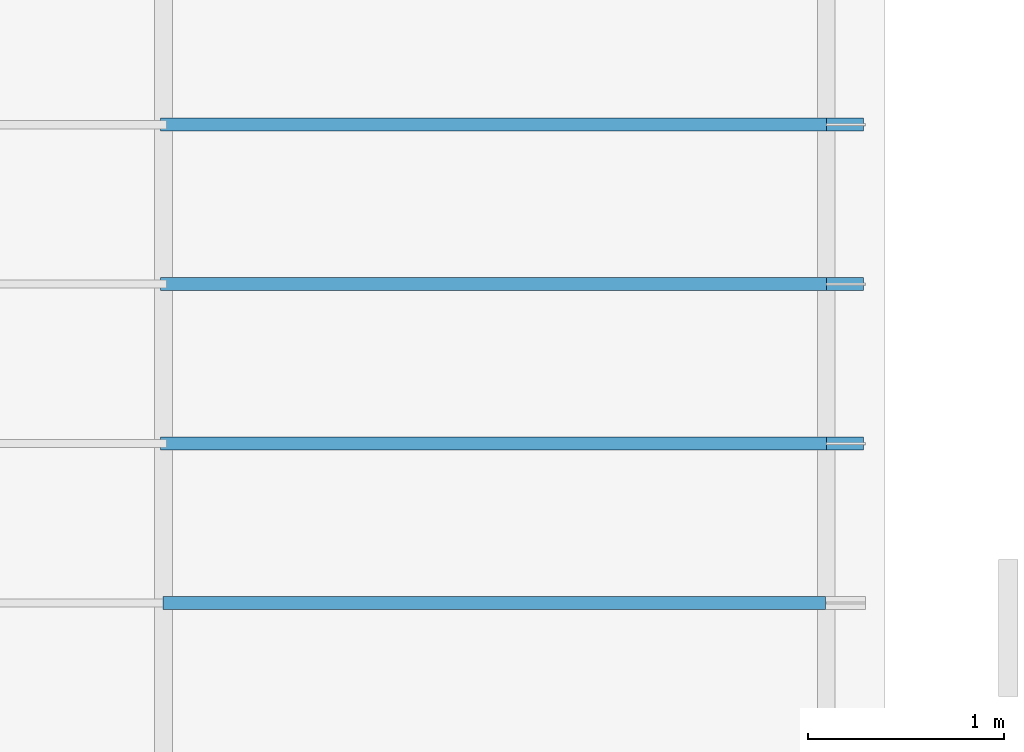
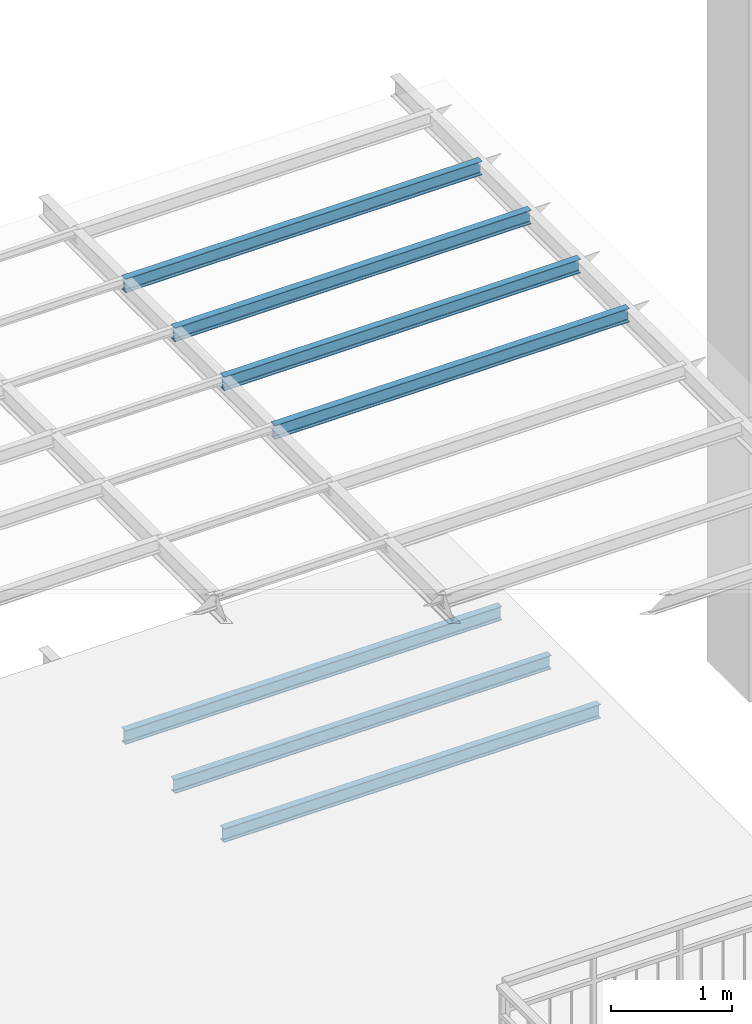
# One storey, part 21 of 33: 7 beams.
"""IFC2X3 building model written with IfcOpenShell, lengths in metres."""

import ifcopenshell
import ifcopenshell.guid

model = None  # the IFC model being written
_history = None  # IfcOwnerHistory: only IFC2X3 demands one
_inside = {}  # id of a spatial element -> (the spatial element, [elements in it])
_under = {}  # id of a project, library or spatial element -> (it, [spatial elements below it])
_declared = {}  # id of a project -> (the project, [libraries it declares])
_typed = {}  # id of a type object -> (the type object, [elements of that type])
_made_of = {}  # id of a material, layer set ... -> (it, [elements and type objects made of it])


def new_model(schema):
    """Start an empty IFC model of exactly this schema.

    Asked for "IFC4X3", IfcOpenShell would pick the latest addendum, in which some entities
    have other attributes; the version numbers below select the first issue.
    IFC2X3 requires an IfcOwnerHistory on every rooted entity: one is made here for all.
    """
    global model, _history
    if schema == "IFC4X3":
        model = ifcopenshell.file(schema_version=(4, 3, 0, 0))
    else:
        model = ifcopenshell.file(schema=schema)
    _inside.clear()
    _under.clear()
    _declared.clear()
    _typed.clear()
    _made_of.clear()
    _history = None
    if model.schema == "IFC2X3":
        org = make("IfcOrganization", Name="unknown")
        user = make(
            "IfcPersonAndOrganization",
            ThePerson=make("IfcPerson", FamilyName="unknown"),
            TheOrganization=org,
        )
        app = make(
            "IfcApplication",
            ApplicationDeveloper=org,
            Version="unknown",
            ApplicationFullName="unknown",
            ApplicationIdentifier="unknown",
        )
        _history = make(
            "IfcOwnerHistory",
            OwningUser=user,
            OwningApplication=app,
            ChangeAction="ADDED",
            CreationDate=0,
        )
    return model


def make(cls, **values):
    """One entity of the class cls with the attributes given. An attribute that is None is left unset."""
    return model.create_entity(
        cls, **{name: value for name, value in values.items() if value is not None}
    )


def entity(cls, *values):
    """Any entity or typed value of the class cls, its attributes in the order of the schema. None: left unset."""
    e = model.create_entity(cls)
    for i, value in enumerate(values):
        if value is not None:
            e[i] = value
    return e


def rooted(cls, **values):
    """An entity with a GlobalId (a new one), such as an element, a storey or a relation."""
    return make(cls, GlobalId=ifcopenshell.guid.new(), OwnerHistory=_history, **values)


def si_unit(unit_type, name, prefix=None):
    """IfcSIUnit, for example si_unit("LENGTHUNIT", "METRE", prefix="MILLI")."""
    return make("IfcSIUnit", UnitType=unit_type, Prefix=prefix, Name=name)


def converted_unit(unit_type, name, factor, base, dimensions=None, offset=None):
    """IfcConversionBasedUnit, such as the inch: factor (a typed value) times the base unit."""
    return make(
        "IfcConversionBasedUnit"
        if offset is None
        else "IfcConversionBasedUnitWithOffset",
        ConversionOffset=offset,
        Dimensions=None
        if dimensions is None
        else entity("IfcDimensionalExponents", *dimensions),
        UnitType=unit_type,
        Name=name,
        ConversionFactor=make(
            "IfcMeasureWithUnit", ValueComponent=factor, UnitComponent=base
        ),
    )


def derived_unit(unit_type, elements):
    """IfcDerivedUnit: a product of units, each with its exponent."""
    return make(
        "IfcDerivedUnit",
        Elements=[
            make("IfcDerivedUnitElement", Unit=unit, Exponent=power)
            for unit, power in elements
        ],
        UnitType=unit_type,
    )


def assignment(units):
    """IfcUnitAssignment: the units of a project."""
    return None if units is None else make("IfcUnitAssignment", Units=units)


def point(xyz):
    """IfcCartesianPoint."""
    return None if xyz is None else make("IfcCartesianPoint", Coordinates=xyz)


def direction(xyz):
    """IfcDirection."""
    return None if xyz is None else make("IfcDirection", DirectionRatios=xyz)


def frame(location, z_axis=None, x_axis=None):
    """IfcAxis2Placement3D, a coordinate frame: its origin and axes. An axis left out is left unset."""
    return make(
        "IfcAxis2Placement3D",
        Location=point(location),
        Axis=direction(z_axis),
        RefDirection=direction(x_axis),
    )


def frame_2d(location, x_axis=None):
    """IfcAxis2Placement2D, a coordinate frame in the plane: its origin and x axis."""
    return make(
        "IfcAxis2Placement2D", Location=point(location), RefDirection=direction(x_axis)
    )


def origin():
    """The frame at (0, 0, 0) with its axes left unset."""
    return frame((0.0, 0.0, 0.0))


def place(relative_to, where):
    """IfcLocalPlacement: puts the frame where relative to a parent placement (None: the world)."""
    return make(
        "IfcLocalPlacement", PlacementRelTo=relative_to, RelativePlacement=where
    )


def context(
    kind, dimensions, precision=None, world=None, true_north=None, identifier=None
):
    """IfcGeometricRepresentationContext, for example the 3D "Model" context."""
    return make(
        "IfcGeometricRepresentationContext",
        ContextIdentifier=identifier,
        ContextType=kind,
        CoordinateSpaceDimension=dimensions,
        Precision=precision,
        WorldCoordinateSystem=world,
        TrueNorth=true_north,
    )


def subcontext(parent, identifier, kind, view, scale=None):
    """IfcGeometricRepresentationSubContext, for example "Body" below "Model"."""
    return make(
        "IfcGeometricRepresentationSubContext",
        ContextIdentifier=identifier,
        ContextType=kind,
        ParentContext=parent,
        TargetScale=scale,
        TargetView=view,
    )


def project(units=None, contexts=None):
    """IfcProject with its units and contexts."""
    return rooted(
        "IfcProject",
        Name="project",
        RepresentationContexts=contexts,
        UnitsInContext=assignment(units),
    )


def spatial(cls, under=None, at=None, **own):
    """A site, building, storey or space (cls), placed at a placement, below another one or the project."""
    s = rooted(cls, ObjectPlacement=at, **own)
    if under is not None:
        _under.setdefault(under.id(), (under, []))[1].append(s)
    return s


def polyline(points):
    """IfcPolyline through the points."""
    return make("IfcPolyline", Points=[point(p) for p in points])


def circle_curve(where, radius):
    """IfcCircle in the frame where."""
    return make("IfcCircle", Position=where, Radius=radius)


def parameter(value):
    """IfcParameterValue: where a trimmed curve begins or ends, as a parameter of its basis curve."""
    return model.create_entity("IfcParameterValue", value)


def trimmed(basis, trim1, trim2, sense, master):
    """IfcTrimmedCurve: the piece of a basis curve between two trims."""
    return make(
        "IfcTrimmedCurve",
        BasisCurve=basis,
        Trim1=trim1,
        Trim2=trim2,
        SenseAgreement=sense,
        MasterRepresentation=master,
    )


def segment(curve, same_sense, transition):
    """IfcCompositeCurveSegment."""
    return make(
        "IfcCompositeCurveSegment",
        Transition=transition,
        SameSense=same_sense,
        ParentCurve=curve,
    )


def composite_curve(segments, self_intersect=None):
    """IfcCompositeCurve: segments joined end to end."""
    return make("IfcCompositeCurve", Segments=segments, SelfIntersect=self_intersect)


def outline(outer, holes=None, kind="AREA"):
    """IfcArbitraryClosedProfileDef: a profile drawn as a closed curve; with holes, ...WithVoids."""
    if holes is None:
        return make("IfcArbitraryClosedProfileDef", ProfileType=kind, OuterCurve=outer)
    return make(
        "IfcArbitraryProfileDefWithVoids",
        ProfileType=kind,
        OuterCurve=outer,
        InnerCurves=holes,
    )


def extrude(swept, where, along, depth):
    """IfcExtrudedAreaSolid: the profile swept, set in the frame where, extruded along a direction by depth."""
    return make(
        "IfcExtrudedAreaSolid",
        SweptArea=swept,
        Position=where,
        ExtrudedDirection=direction(along),
        Depth=depth,
    )


def shape(context_of_items, identifier, shape_type, items):
    """IfcShapeRepresentation: the items that make up one representation, for example the "Body"."""
    return make(
        "IfcShapeRepresentation",
        ContextOfItems=context_of_items,
        RepresentationIdentifier=identifier,
        RepresentationType=shape_type,
        Items=items,
    )


def material(Name=None, Category=None):
    """IfcMaterial."""
    return make("IfcMaterial", Name=Name, Category=Category)


def made_of(thing, what):
    """Note that an element or type object is made of a material, layer set ...; save() writes the relation."""
    if what is not None:
        _made_of.setdefault(what.id(), (what, []))[1].append(thing)
    return thing


def type_object(cls, material=None, **own):
    """A type object (cls), such as IfcWallType, which elements share."""
    return made_of(rooted(cls, **own), material)


def element(
    cls,
    number,
    at=None,
    inside=None,
    cuts=None,
    type_object=None,
    material=None,
    context=None,
    identifier="Body",
    shape_type=None,
    held_by="IfcProductDefinitionShape",
    body=None,
    shapes=None,
    **own,
):
    """One element of the class cls, such as IfcWall. Its Tag is "e" and its number.

    at: its placement. inside: the storey or other place that contains it. cuts: it is an
    opening in that element (IfcRelVoidsElement). A single representation is given by context,
    identifier, shape_type and body (its items); several are given by shapes. held_by: the class
    of the entity that holds the representations. save() writes the other relations.
    """
    e = rooted(cls, Tag="e%d" % number, ObjectPlacement=at, **own)
    if body is not None:
        shapes = [shape(context, identifier, shape_type, body)]
    if shapes is not None:
        e.Representation = make(held_by, Representations=shapes)
    if inside is not None:
        _inside.setdefault(inside.id(), (inside, []))[1].append(e)
    if cuts is not None:
        rooted(
            "IfcRelVoidsElement", RelatingBuildingElement=cuts, RelatedOpeningElement=e
        )
    if type_object is not None:
        _typed.setdefault(type_object.id(), (type_object, []))[1].append(e)
    return made_of(e, material)


def aggregate(whole, parts):
    """IfcRelAggregates: a whole, such as a stair, and the parts it consists of."""
    return rooted("IfcRelAggregates", RelatingObject=whole, RelatedObjects=parts)


def save(model, path):
    """Write the relations noted so far, then the file.

    IfcRelAggregates (storeys below a building ...), IfcRelContainedInSpatialStructure (elements
    in a storey), IfcRelDefinesByType, IfcRelAssociatesMaterial and IfcRelDeclares: one each for
    every whole, place, type object, material and project.
    """
    for whole, parts in _under.values():
        aggregate(whole, parts)
    for where, things in _inside.values():
        rooted(
            "IfcRelContainedInSpatialStructure",
            RelatedElements=things,
            RelatingStructure=where,
        )
    for kind, things in _typed.values():
        rooted("IfcRelDefinesByType", RelatedObjects=things, RelatingType=kind)
    for what, things in _made_of.values():
        rooted("IfcRelAssociatesMaterial", RelatedObjects=things, RelatingMaterial=what)
    for by, libraries in _declared.values():
        rooted("IfcRelDeclares", RelatingContext=by, RelatedDefinitions=libraries)
    model.write(path)


model = new_model("IFC2X3")

# Units and contexts
model_context = context("Model", 3, precision=1e-05, world=origin(), true_north=direction((6.12303176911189e-17, 1.0)))
body_context = subcontext(model_context, "Body", "Model", "MODEL_VIEW")
ifc_project = project(units=[si_unit("LENGTHUNIT", "METRE"), si_unit("AREAUNIT", "SQUARE_METRE"), si_unit("VOLUMEUNIT", "CUBIC_METRE"), converted_unit("PLANEANGLEUNIT", "DEGREE", entity("IfcRatioMeasure", 0.0174532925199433), si_unit("PLANEANGLEUNIT", "RADIAN"), dimensions=[0, 0, 0, 0, 0, 0, 0]), si_unit("MASSUNIT", "GRAM", prefix="KILO"), derived_unit("MASSDENSITYUNIT", [(si_unit("MASSUNIT", "GRAM", prefix="KILO"), 1), (si_unit("LENGTHUNIT", "METRE"), -3)]), derived_unit("MOMENTOFINERTIAUNIT", [(si_unit("LENGTHUNIT", "METRE"), 4)]), si_unit("TIMEUNIT", "SECOND"), si_unit("FREQUENCYUNIT", "HERTZ"), si_unit("THERMODYNAMICTEMPERATUREUNIT", "DEGREE_CELSIUS"), derived_unit("THERMALTRANSMITTANCEUNIT", [(si_unit("MASSUNIT", "GRAM", prefix="KILO"), 1), (si_unit("THERMODYNAMICTEMPERATUREUNIT", "KELVIN"), -1), (si_unit("TIMEUNIT", "SECOND"), -3)]), derived_unit("VOLUMETRICFLOWRATEUNIT", [(si_unit("LENGTHUNIT", "METRE"), 3), (si_unit("TIMEUNIT", "SECOND"), -1)]), si_unit("ELECTRICCURRENTUNIT", "AMPERE"), si_unit("ELECTRICVOLTAGEUNIT", "VOLT"), si_unit("POWERUNIT", "WATT"), si_unit("FORCEUNIT", "NEWTON", prefix="KILO"), si_unit("ILLUMINANCEUNIT", "LUX"), si_unit("LUMINOUSFLUXUNIT", "LUMEN"), si_unit("LUMINOUSINTENSITYUNIT", "CANDELA"), derived_unit("USERDEFINED", [(si_unit("MASSUNIT", "GRAM", prefix="KILO"), -1), (si_unit("LENGTHUNIT", "METRE"), -2), (si_unit("TIMEUNIT", "SECOND"), 3), (si_unit("LUMINOUSFLUXUNIT", "LUMEN"), 1)]), derived_unit("LINEARVELOCITYUNIT", [(si_unit("LENGTHUNIT", "METRE"), 1), (si_unit("TIMEUNIT", "SECOND"), -1)]), si_unit("PRESSUREUNIT", "PASCAL"), derived_unit("USERDEFINED", [(si_unit("LENGTHUNIT", "METRE"), -2), (si_unit("MASSUNIT", "GRAM", prefix="KILO"), 1), (si_unit("TIMEUNIT", "SECOND"), -2)]), derived_unit("LINEARFORCEUNIT", [(si_unit("MASSUNIT", "GRAM", prefix="KILO"), 1), (si_unit("LENGTHUNIT", "METRE"), 1), (si_unit("TIMEUNIT", "SECOND"), -2), (si_unit("LENGTHUNIT", "METRE"), -1)]), derived_unit("PLANARFORCEUNIT", [(si_unit("MASSUNIT", "GRAM", prefix="KILO"), 1), (si_unit("LENGTHUNIT", "METRE"), 1), (si_unit("TIMEUNIT", "SECOND"), -2), (si_unit("LENGTHUNIT", "METRE"), -2)])], contexts=[model_context])

# Site, building, storey
site_placement = place(None, origin())
site = spatial("IfcSite", under=ifc_project, at=site_placement, Name="Superficie", CompositionType="ELEMENT")
building_placement = place(site_placement, origin())
building = spatial("IfcBuilding", under=site, at=building_placement, Name="Telegestiones", CompositionType="ELEMENT")
storey_placement = place(building_placement, frame((0.0, 0.0, 4.94)))
storey = spatial("IfcBuildingStorey", under=building, at=storey_placement, Name="Nivel 1_NPT", CompositionType="ELEMENT", Elevation=4.94)

# Beams
ifc_material = material(Name="Metal - Acero - 345 MPa")
beam_type = type_object("IfcBeamType", Name="IPN - Secciones en I con alas cónicas:IPN 140", PredefinedType="NOTDEFINED")
beam_1_placement = place(storey_placement, frame((11.2748126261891, 11.0071072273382, 0.0)))
element("IfcBeam", 1, at=beam_1_placement, inside=storey, type_object=beam_type, material=ifc_material, Name="IPN - Secciones en I con alas cónicas:IPN 140", ObjectType="IPN - Secciones en I con alas cónicas:IPN 140", context=body_context, shape_type="SweptSolid", body=[
    extrude(outline(composite_curve([segment(polyline([(0.0666671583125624, -0.0330000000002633), (0.0699999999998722, -0.0330000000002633)]), True, "CONTINUOUS"), segment(polyline([(0.0699999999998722, -0.0330000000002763), (0.0700000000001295, 0.0329999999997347)]), True, "CONTINUOUS"), segment(polyline([(0.0700000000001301, 0.0329999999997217), (0.0666671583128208, 0.0329999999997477)]), True, "CONTINUOUS"), segment(trimmed(circle_curve(frame_2d((0.066667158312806, 0.0295999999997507), x_axis=(0.0, 1.0)), 0.00339999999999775), [parameter(0.0)], [parameter(82.0303896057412)], True, "PARAMETER"), True, "CONTINUOUS"), segment(polyline([(0.0632999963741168, 0.0300714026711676), (0.0601763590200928, 0.00775970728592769)]), True, "CONTINUOUS"), segment(trimmed(circle_curve(frame_2d((0.0545314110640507, 0.00854999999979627), x_axis=(0.990341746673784, -0.13864784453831)), 0.00570000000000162), [parameter(277.96961039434)], [parameter(0.0)], True, "PARAMETER"), False, "CONTINUOUS"), segment(polyline([(0.0545314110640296, 0.00284999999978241), (-0.0545314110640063, 0.00285000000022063)]), True, "CONTINUOUS"), segment(trimmed(circle_curve(frame_2d((-0.054531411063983, 0.0085500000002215), x_axis=(0.0, -1.0)), 0.00570000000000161), [parameter(277.969610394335)], [parameter(0.0)], True, "PARAMETER"), False, "CONTINUOUS"), segment(polyline([(-0.0601763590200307, 0.00775970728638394), (-0.0632999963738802, 0.030071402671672)]), True, "CONTINUOUS"), segment(trimmed(circle_curve(frame_2d((-0.0666671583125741, 0.0296000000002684), x_axis=(0.990341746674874, 0.13864784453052)), 0.00339999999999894), [parameter(0.0)], [parameter(82.0303896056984)], True, "PARAMETER"), True, "CONTINUOUS"), segment(polyline([(-0.0666671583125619, 0.0330000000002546), (-0.0699999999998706, 0.0330000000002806)]), True, "CONTINUOUS"), segment(polyline([(-0.0699999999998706, 0.0330000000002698), (-0.0700000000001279, -0.0329999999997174)]), True, "CONTINUOUS"), segment(polyline([(-0.0700000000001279, -0.0329999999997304), (-0.0666671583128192, -0.0329999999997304)]), True, "CONTINUOUS"), segment(trimmed(circle_curve(frame_2d((-0.0666671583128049, -0.0295999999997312), x_axis=(0.0, -1.0)), 0.00339999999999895), [parameter(0.0)], [parameter(82.0303896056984)], True, "PARAMETER"), True, "CONTINUOUS"), segment(polyline([(-0.0632999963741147, -0.0300714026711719), (-0.0601763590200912, -0.00775970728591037)]), True, "CONTINUOUS"), segment(trimmed(circle_curve(frame_2d((-0.0545314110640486, -0.00854999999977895), x_axis=(-0.990341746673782, 0.138647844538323)), 0.00570000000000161), [parameter(277.969610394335)], [parameter(0.0)], True, "PARAMETER"), False, "CONTINUOUS"), segment(polyline([(-0.0545314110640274, -0.00284999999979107), (0.0545314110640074, -0.0028500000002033)]), True, "CONTINUOUS"), segment(trimmed(circle_curve(frame_2d((0.0545314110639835, -0.00855000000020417), x_axis=(0.0, 1.0)), 0.00570000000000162), [parameter(277.96961039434)], [parameter(0.0)], True, "PARAMETER"), False, "CONTINUOUS"), segment(polyline([(0.0601763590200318, -0.0077597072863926), (0.0632999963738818, -0.0300714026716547)]), True, "CONTINUOUS"), segment(trimmed(circle_curve(frame_2d((0.0666671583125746, -0.029600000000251), x_axis=(-0.990341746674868, -0.138647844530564)), 0.00339999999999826), [parameter(0.0)], [parameter(82.030389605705)], True, "PARAMETER"), True, "CONTINUOUS")], self_intersect=False)), frame((-0.0149999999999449, 0.0, -0.100000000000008), z_axis=(1.0, 0.0, 0.0), x_axis=(0.0, 0.0, -1.0)), (0.0, 0.0, 1.0), 3.59499999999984),
])
beam_2_placement = place(storey_placement, frame((11.2748126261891, 11.8226072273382, 0.0)))
element("IfcBeam", 2, at=beam_2_placement, inside=storey, type_object=beam_type, material=ifc_material, Name="IPN - Secciones en I con alas cónicas:IPN 140", ObjectType="IPN - Secciones en I con alas cónicas:IPN 140", context=body_context, shape_type="SweptSolid", body=[
    extrude(outline(composite_curve([segment(polyline([(0.0666671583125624, -0.0330000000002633), (0.0699999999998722, -0.0330000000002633)]), True, "CONTINUOUS"), segment(polyline([(0.0699999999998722, -0.0330000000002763), (0.0700000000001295, 0.0329999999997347)]), True, "CONTINUOUS"), segment(polyline([(0.0700000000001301, 0.0329999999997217), (0.0666671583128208, 0.0329999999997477)]), True, "CONTINUOUS"), segment(trimmed(circle_curve(frame_2d((0.066667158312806, 0.0295999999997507), x_axis=(0.0, 1.0)), 0.00339999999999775), [parameter(0.0)], [parameter(82.0303896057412)], True, "PARAMETER"), True, "CONTINUOUS"), segment(polyline([(0.0632999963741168, 0.0300714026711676), (0.0601763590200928, 0.00775970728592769)]), True, "CONTINUOUS"), segment(trimmed(circle_curve(frame_2d((0.0545314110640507, 0.00854999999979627), x_axis=(0.990341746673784, -0.13864784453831)), 0.00570000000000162), [parameter(277.96961039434)], [parameter(0.0)], True, "PARAMETER"), False, "CONTINUOUS"), segment(polyline([(0.0545314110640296, 0.00284999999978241), (-0.0545314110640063, 0.00285000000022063)]), True, "CONTINUOUS"), segment(trimmed(circle_curve(frame_2d((-0.054531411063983, 0.0085500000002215), x_axis=(0.0, -1.0)), 0.00570000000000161), [parameter(277.969610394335)], [parameter(0.0)], True, "PARAMETER"), False, "CONTINUOUS"), segment(polyline([(-0.0601763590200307, 0.00775970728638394), (-0.0632999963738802, 0.030071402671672)]), True, "CONTINUOUS"), segment(trimmed(circle_curve(frame_2d((-0.0666671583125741, 0.0296000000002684), x_axis=(0.990341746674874, 0.13864784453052)), 0.00339999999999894), [parameter(0.0)], [parameter(82.0303896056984)], True, "PARAMETER"), True, "CONTINUOUS"), segment(polyline([(-0.0666671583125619, 0.0330000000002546), (-0.0699999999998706, 0.0330000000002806)]), True, "CONTINUOUS"), segment(polyline([(-0.0699999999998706, 0.0330000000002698), (-0.0700000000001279, -0.0329999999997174)]), True, "CONTINUOUS"), segment(polyline([(-0.0700000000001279, -0.0329999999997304), (-0.0666671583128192, -0.0329999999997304)]), True, "CONTINUOUS"), segment(trimmed(circle_curve(frame_2d((-0.0666671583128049, -0.0295999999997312), x_axis=(0.0, -1.0)), 0.00339999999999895), [parameter(0.0)], [parameter(82.0303896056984)], True, "PARAMETER"), True, "CONTINUOUS"), segment(polyline([(-0.0632999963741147, -0.0300714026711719), (-0.0601763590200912, -0.00775970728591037)]), True, "CONTINUOUS"), segment(trimmed(circle_curve(frame_2d((-0.0545314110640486, -0.00854999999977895), x_axis=(-0.990341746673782, 0.138647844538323)), 0.00570000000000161), [parameter(277.969610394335)], [parameter(0.0)], True, "PARAMETER"), False, "CONTINUOUS"), segment(polyline([(-0.0545314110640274, -0.00284999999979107), (0.0545314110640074, -0.0028500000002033)]), True, "CONTINUOUS"), segment(trimmed(circle_curve(frame_2d((0.0545314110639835, -0.00855000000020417), x_axis=(0.0, 1.0)), 0.00570000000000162), [parameter(277.96961039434)], [parameter(0.0)], True, "PARAMETER"), False, "CONTINUOUS"), segment(polyline([(0.0601763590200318, -0.0077597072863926), (0.0632999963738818, -0.0300714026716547)]), True, "CONTINUOUS"), segment(trimmed(circle_curve(frame_2d((0.0666671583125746, -0.029600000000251), x_axis=(-0.990341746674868, -0.138647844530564)), 0.00339999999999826), [parameter(0.0)], [parameter(82.030389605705)], True, "PARAMETER"), True, "CONTINUOUS")], self_intersect=False)), frame((-0.0149999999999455, 0.0, -0.100000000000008), z_axis=(1.0, 0.0, 0.0), x_axis=(0.0, 0.0, -1.0)), (0.0, 0.0, 1.0), 3.59499999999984),
])
beam_3_placement = place(storey_placement, frame((11.2748126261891, 12.6381072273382, 0.0)))
element("IfcBeam", 3, at=beam_3_placement, inside=storey, type_object=beam_type, material=ifc_material, Name="IPN - Secciones en I con alas cónicas:IPN 140", ObjectType="IPN - Secciones en I con alas cónicas:IPN 140", context=body_context, shape_type="SweptSolid", body=[
    extrude(outline(composite_curve([segment(polyline([(0.0666671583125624, -0.0330000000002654), (0.0699999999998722, -0.0330000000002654)]), True, "CONTINUOUS"), segment(polyline([(0.0699999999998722, -0.0330000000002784), (0.0700000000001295, 0.0329999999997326)]), True, "CONTINUOUS"), segment(polyline([(0.0700000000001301, 0.0329999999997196), (0.0666671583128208, 0.0329999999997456)]), True, "CONTINUOUS"), segment(trimmed(circle_curve(frame_2d((0.066667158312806, 0.0295999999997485), x_axis=(0.0, 1.0)), 0.00339999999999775), [parameter(0.0)], [parameter(82.0303896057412)], True, "PARAMETER"), True, "CONTINUOUS"), segment(polyline([(0.0632999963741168, 0.0300714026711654), (0.0601763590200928, 0.00775970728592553)]), True, "CONTINUOUS"), segment(trimmed(circle_curve(frame_2d((0.0545314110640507, 0.00854999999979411), x_axis=(0.990341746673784, -0.13864784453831)), 0.00570000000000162), [parameter(277.96961039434)], [parameter(0.0)], True, "PARAMETER"), False, "CONTINUOUS"), segment(polyline([(0.0545314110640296, 0.00284999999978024), (-0.0545314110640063, 0.00285000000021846)]), True, "CONTINUOUS"), segment(trimmed(circle_curve(frame_2d((-0.054531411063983, 0.00855000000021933), x_axis=(0.0, -1.0)), 0.00570000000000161), [parameter(277.969610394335)], [parameter(0.0)], True, "PARAMETER"), False, "CONTINUOUS"), segment(polyline([(-0.0601763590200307, 0.00775970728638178), (-0.0632999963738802, 0.0300714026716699)]), True, "CONTINUOUS"), segment(trimmed(circle_curve(frame_2d((-0.0666671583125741, 0.0296000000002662), x_axis=(0.990341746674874, 0.13864784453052)), 0.00339999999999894), [parameter(0.0)], [parameter(82.0303896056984)], True, "PARAMETER"), True, "CONTINUOUS"), segment(polyline([(-0.0666671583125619, 0.0330000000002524), (-0.0699999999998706, 0.0330000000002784)]), True, "CONTINUOUS"), segment(polyline([(-0.0699999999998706, 0.0330000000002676), (-0.0700000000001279, -0.0329999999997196)]), True, "CONTINUOUS"), segment(polyline([(-0.0700000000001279, -0.0329999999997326), (-0.0666671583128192, -0.0329999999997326)]), True, "CONTINUOUS"), segment(trimmed(circle_curve(frame_2d((-0.0666671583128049, -0.0295999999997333), x_axis=(0.0, -1.0)), 0.00339999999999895), [parameter(0.0)], [parameter(82.0303896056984)], True, "PARAMETER"), True, "CONTINUOUS"), segment(polyline([(-0.0632999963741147, -0.0300714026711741), (-0.0601763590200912, -0.00775970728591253)]), True, "CONTINUOUS"), segment(trimmed(circle_curve(frame_2d((-0.0545314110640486, -0.00854999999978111), x_axis=(-0.990341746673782, 0.138647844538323)), 0.00570000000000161), [parameter(277.969610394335)], [parameter(0.0)], True, "PARAMETER"), False, "CONTINUOUS"), segment(polyline([(-0.0545314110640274, -0.00284999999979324), (0.0545314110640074, -0.00285000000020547)]), True, "CONTINUOUS"), segment(trimmed(circle_curve(frame_2d((0.0545314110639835, -0.00855000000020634), x_axis=(0.0, 1.0)), 0.00570000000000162), [parameter(277.96961039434)], [parameter(0.0)], True, "PARAMETER"), False, "CONTINUOUS"), segment(polyline([(0.0601763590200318, -0.00775970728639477), (0.0632999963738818, -0.0300714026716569)]), True, "CONTINUOUS"), segment(trimmed(circle_curve(frame_2d((0.0666671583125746, -0.0296000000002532), x_axis=(-0.990341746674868, -0.138647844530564)), 0.00339999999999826), [parameter(0.0)], [parameter(82.030389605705)], True, "PARAMETER"), True, "CONTINUOUS")], self_intersect=False)), frame((-0.0149999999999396, 0.0, -0.100000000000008), z_axis=(1.0, 0.0, 0.0), x_axis=(0.0, 0.0, -1.0)), (0.0, 0.0, 1.0), 3.59499999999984),
])
beam_4_placement = place(storey_placement, frame((11.2718126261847, 10.1916072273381, 4.56)))
element("IfcBeam", 4, at=beam_4_placement, inside=storey, type_object=beam_type, material=ifc_material, Name="IPN - Secciones en I con alas cónicas:IPN 140", ObjectType="IPN - Secciones en I con alas cónicas:IPN 140", context=body_context, shape_type="SweptSolid", body=[
    extrude(outline(composite_curve([segment(polyline([(0.0666671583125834, -0.0330000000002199), (0.0699999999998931, -0.0330000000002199)]), True, "CONTINUOUS"), segment(polyline([(0.0699999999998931, -0.0330000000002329), (0.0700000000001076, 0.0329999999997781)]), True, "CONTINUOUS"), segment(polyline([(0.0700000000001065, 0.0329999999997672), (0.0666671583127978, 0.0329999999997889)]), True, "CONTINUOUS"), segment(trimmed(circle_curve(frame_2d((0.0666671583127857, 0.0295999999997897), x_axis=(0.0, 1.0)), 0.00339999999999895), [parameter(0.0)], [parameter(82.0303896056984)], True, "PARAMETER"), True, "CONTINUOUS"), segment(polyline([(0.0632999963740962, 0.0300714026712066), (0.0601763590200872, 0.00775970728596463)]), True, "CONTINUOUS"), segment(trimmed(circle_curve(frame_2d((0.0545314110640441, 0.00854999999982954), x_axis=(0.990341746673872, -0.13864784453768)), 0.00570000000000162), [parameter(277.969610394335)], [parameter(0.0)], True, "PARAMETER"), False, "CONTINUOUS"), segment(polyline([(0.0545314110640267, 0.00284999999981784), (-0.0545314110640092, 0.00285000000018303)]), True, "CONTINUOUS"), segment(trimmed(circle_curve(frame_2d((-0.0545314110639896, 0.0085500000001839), x_axis=(0.0, -1.0)), 0.00570000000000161), [parameter(277.969610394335)], [parameter(0.0)], True, "PARAMETER"), False, "CONTINUOUS"), segment(polyline([(-0.0601763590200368, 0.00775970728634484), (-0.0632999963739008, 0.0300714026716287)]), True, "CONTINUOUS"), segment(trimmed(circle_curve(frame_2d((-0.0666671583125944, 0.0296000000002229), x_axis=(0.990341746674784, 0.138647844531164)), 0.00339999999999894), [parameter(0.0)], [parameter(82.0303896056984)], True, "PARAMETER"), True, "CONTINUOUS"), segment(polyline([(-0.0666671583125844, 0.0330000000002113), (-0.0699999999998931, 0.0330000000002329)]), True, "CONTINUOUS"), segment(polyline([(-0.0699999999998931, 0.0330000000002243), (-0.0700000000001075, -0.0329999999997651)]), True, "CONTINUOUS"), segment(polyline([(-0.0700000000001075, -0.0329999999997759), (-0.0666671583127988, -0.0329999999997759)]), True, "CONTINUOUS"), segment(trimmed(circle_curve(frame_2d((-0.0666671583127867, -0.0295999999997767), x_axis=(0.0, -1.0)), 0.00339999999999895), [parameter(0.0)], [parameter(82.0303896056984)], True, "PARAMETER"), True, "CONTINUOUS"), segment(polyline([(-0.0632999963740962, -0.0300714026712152), (-0.0601763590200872, -0.00775970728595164)]), True, "CONTINUOUS"), segment(trimmed(circle_curve(frame_2d((-0.0545314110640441, -0.00854999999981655), x_axis=(-0.990341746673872, 0.13864784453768)), 0.00570000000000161), [parameter(277.969610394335)], [parameter(0.0)], True, "PARAMETER"), False, "CONTINUOUS"), segment(polyline([(-0.0545314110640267, -0.00284999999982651), (0.0545314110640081, -0.00285000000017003)]), True, "CONTINUOUS"), segment(trimmed(circle_curve(frame_2d((0.0545314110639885, -0.0085500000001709), x_axis=(0.0, 1.0)), 0.00570000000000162), [parameter(277.969610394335)], [parameter(0.0)], True, "PARAMETER"), False, "CONTINUOUS"), segment(polyline([(0.0601763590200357, -0.0077597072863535), (0.0632999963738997, -0.0300714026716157)]), True, "CONTINUOUS"), segment(trimmed(circle_curve(frame_2d((0.0666671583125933, -0.0296000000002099), x_axis=(-0.990341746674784, -0.138647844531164)), 0.00339999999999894), [parameter(0.0)], [parameter(82.0303896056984)], True, "PARAMETER"), True, "CONTINUOUS")], self_intersect=False)), frame((0.00100000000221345, 0.0, -0.100000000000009), z_axis=(1.0, 0.0, 0.0), x_axis=(0.0, 0.0, -1.0)), (0.0, 0.0, 1.0), 3.387),
])
beam_5_placement = place(storey_placement, frame((11.2748126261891, 11.0071072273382, 4.56)))
element("IfcBeam", 5, at=beam_5_placement, inside=storey, type_object=beam_type, material=ifc_material, Name="IPN - Secciones en I con alas cónicas:IPN 140", ObjectType="IPN - Secciones en I con alas cónicas:IPN 140", context=body_context, shape_type="SweptSolid", body=[
    extrude(outline(composite_curve([segment(polyline([(0.0666671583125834, -0.0330000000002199), (0.0699999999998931, -0.0330000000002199)]), True, "CONTINUOUS"), segment(polyline([(0.0699999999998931, -0.0330000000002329), (0.0700000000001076, 0.0329999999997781)]), True, "CONTINUOUS"), segment(polyline([(0.0700000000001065, 0.0329999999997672), (0.0666671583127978, 0.0329999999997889)]), True, "CONTINUOUS"), segment(trimmed(circle_curve(frame_2d((0.0666671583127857, 0.0295999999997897), x_axis=(0.0, 1.0)), 0.00339999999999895), [parameter(0.0)], [parameter(82.0303896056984)], True, "PARAMETER"), True, "CONTINUOUS"), segment(polyline([(0.0632999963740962, 0.0300714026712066), (0.0601763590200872, 0.00775970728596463)]), True, "CONTINUOUS"), segment(trimmed(circle_curve(frame_2d((0.0545314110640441, 0.00854999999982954), x_axis=(0.990341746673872, -0.13864784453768)), 0.00570000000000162), [parameter(277.969610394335)], [parameter(0.0)], True, "PARAMETER"), False, "CONTINUOUS"), segment(polyline([(0.0545314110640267, 0.00284999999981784), (-0.0545314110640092, 0.00285000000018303)]), True, "CONTINUOUS"), segment(trimmed(circle_curve(frame_2d((-0.0545314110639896, 0.0085500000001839), x_axis=(0.0, -1.0)), 0.00570000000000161), [parameter(277.969610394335)], [parameter(0.0)], True, "PARAMETER"), False, "CONTINUOUS"), segment(polyline([(-0.0601763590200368, 0.00775970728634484), (-0.0632999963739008, 0.0300714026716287)]), True, "CONTINUOUS"), segment(trimmed(circle_curve(frame_2d((-0.0666671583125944, 0.0296000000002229), x_axis=(0.990341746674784, 0.138647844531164)), 0.00339999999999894), [parameter(0.0)], [parameter(82.0303896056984)], True, "PARAMETER"), True, "CONTINUOUS"), segment(polyline([(-0.0666671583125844, 0.0330000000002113), (-0.0699999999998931, 0.0330000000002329)]), True, "CONTINUOUS"), segment(polyline([(-0.0699999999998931, 0.0330000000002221), (-0.0700000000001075, -0.0329999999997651)]), True, "CONTINUOUS"), segment(polyline([(-0.0700000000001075, -0.0329999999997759), (-0.0666671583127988, -0.0329999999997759)]), True, "CONTINUOUS"), segment(trimmed(circle_curve(frame_2d((-0.0666671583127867, -0.0295999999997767), x_axis=(0.0, -1.0)), 0.00339999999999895), [parameter(0.0)], [parameter(82.0303896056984)], True, "PARAMETER"), True, "CONTINUOUS"), segment(polyline([(-0.0632999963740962, -0.0300714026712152), (-0.0601763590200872, -0.00775970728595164)]), True, "CONTINUOUS"), segment(trimmed(circle_curve(frame_2d((-0.0545314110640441, -0.00854999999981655), x_axis=(-0.990341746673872, 0.13864784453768)), 0.00570000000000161), [parameter(277.969610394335)], [parameter(0.0)], True, "PARAMETER"), False, "CONTINUOUS"), segment(polyline([(-0.0545314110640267, -0.00284999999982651), (0.0545314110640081, -0.00285000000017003)]), True, "CONTINUOUS"), segment(trimmed(circle_curve(frame_2d((0.0545314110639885, -0.0085500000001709), x_axis=(0.0, 1.0)), 0.00570000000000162), [parameter(277.969610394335)], [parameter(0.0)], True, "PARAMETER"), False, "CONTINUOUS"), segment(polyline([(0.0601763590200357, -0.00775970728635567), (0.0632999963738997, -0.0300714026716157)]), True, "CONTINUOUS"), segment(trimmed(circle_curve(frame_2d((0.0666671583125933, -0.0296000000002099), x_axis=(-0.990341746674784, -0.138647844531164)), 0.00339999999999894), [parameter(0.0)], [parameter(82.0303896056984)], True, "PARAMETER"), True, "CONTINUOUS")], self_intersect=False)), frame((-0.0150000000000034, 0.0, -0.100000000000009), z_axis=(1.0, 0.0, 0.0), x_axis=(0.0, 0.0, -1.0)), (0.0, 0.0, 1.0), 3.405),
])
beam_6_placement = place(storey_placement, frame((11.2748126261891, 11.8226072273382, 4.56)))
element("IfcBeam", 6, at=beam_6_placement, inside=storey, type_object=beam_type, material=ifc_material, Name="IPN - Secciones en I con alas cónicas:IPN 140", ObjectType="IPN - Secciones en I con alas cónicas:IPN 140", context=body_context, shape_type="SweptSolid", body=[
    extrude(outline(composite_curve([segment(polyline([(0.0666671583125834, -0.0330000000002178), (0.0699999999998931, -0.0330000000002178)]), True, "CONTINUOUS"), segment(polyline([(0.0699999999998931, -0.0330000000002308), (0.0700000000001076, 0.0329999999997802)]), True, "CONTINUOUS"), segment(polyline([(0.0700000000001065, 0.0329999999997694), (0.0666671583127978, 0.0329999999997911)]), True, "CONTINUOUS"), segment(trimmed(circle_curve(frame_2d((0.0666671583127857, 0.0295999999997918), x_axis=(0.0, 1.0)), 0.00339999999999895), [parameter(0.0)], [parameter(82.0303896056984)], True, "PARAMETER"), True, "CONTINUOUS"), segment(polyline([(0.0632999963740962, 0.0300714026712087), (0.0601763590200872, 0.0077597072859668)]), True, "CONTINUOUS"), segment(trimmed(circle_curve(frame_2d((0.0545314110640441, 0.00854999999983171), x_axis=(0.990341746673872, -0.13864784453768)), 0.00570000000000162), [parameter(277.969610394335)], [parameter(0.0)], True, "PARAMETER"), False, "CONTINUOUS"), segment(polyline([(0.0545314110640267, 0.00284999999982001), (-0.0545314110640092, 0.00285000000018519)]), True, "CONTINUOUS"), segment(trimmed(circle_curve(frame_2d((-0.0545314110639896, 0.00855000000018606), x_axis=(0.0, -1.0)), 0.00570000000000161), [parameter(277.969610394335)], [parameter(0.0)], True, "PARAMETER"), False, "CONTINUOUS"), segment(polyline([(-0.0601763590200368, 0.007759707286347), (-0.0632999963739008, 0.0300714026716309)]), True, "CONTINUOUS"), segment(trimmed(circle_curve(frame_2d((-0.0666671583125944, 0.029600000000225), x_axis=(0.990341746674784, 0.138647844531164)), 0.00339999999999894), [parameter(0.0)], [parameter(82.0303896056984)], True, "PARAMETER"), True, "CONTINUOUS"), segment(polyline([(-0.0666671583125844, 0.0330000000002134), (-0.0699999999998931, 0.0330000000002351)]), True, "CONTINUOUS"), segment(polyline([(-0.0699999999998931, 0.0330000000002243), (-0.0700000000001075, -0.0329999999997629)]), True, "CONTINUOUS"), segment(polyline([(-0.0700000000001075, -0.0329999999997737), (-0.0666671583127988, -0.0329999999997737)]), True, "CONTINUOUS"), segment(trimmed(circle_curve(frame_2d((-0.0666671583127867, -0.0295999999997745), x_axis=(0.0, -1.0)), 0.00339999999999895), [parameter(0.0)], [parameter(82.0303896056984)], True, "PARAMETER"), True, "CONTINUOUS"), segment(polyline([(-0.0632999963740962, -0.0300714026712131), (-0.0601763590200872, -0.00775970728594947)]), True, "CONTINUOUS"), segment(trimmed(circle_curve(frame_2d((-0.0545314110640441, -0.00854999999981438), x_axis=(-0.990341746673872, 0.13864784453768)), 0.00570000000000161), [parameter(277.969610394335)], [parameter(0.0)], True, "PARAMETER"), False, "CONTINUOUS"), segment(polyline([(-0.0545314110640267, -0.00284999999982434), (0.0545314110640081, -0.00285000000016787)]), True, "CONTINUOUS"), segment(trimmed(circle_curve(frame_2d((0.0545314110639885, -0.00855000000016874), x_axis=(0.0, 1.0)), 0.00570000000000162), [parameter(277.969610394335)], [parameter(0.0)], True, "PARAMETER"), False, "CONTINUOUS"), segment(polyline([(0.0601763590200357, -0.0077597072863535), (0.0632999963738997, -0.0300714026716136)]), True, "CONTINUOUS"), segment(trimmed(circle_curve(frame_2d((0.0666671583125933, -0.0296000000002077), x_axis=(-0.990341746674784, -0.138647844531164)), 0.00339999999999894), [parameter(0.0)], [parameter(82.0303896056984)], True, "PARAMETER"), True, "CONTINUOUS")], self_intersect=False)), frame((-0.0150000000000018, 0.0, -0.100000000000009), z_axis=(1.0, 0.0, 0.0), x_axis=(0.0, 0.0, -1.0)), (0.0, 0.0, 1.0), 3.405),
])
beam_7_placement = place(storey_placement, frame((11.2748126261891, 12.6381072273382, 4.56)))
element("IfcBeam", 7, at=beam_7_placement, inside=storey, type_object=beam_type, material=ifc_material, Name="IPN - Secciones en I con alas cónicas:IPN 140", ObjectType="IPN - Secciones en I con alas cónicas:IPN 140", context=body_context, shape_type="SweptSolid", body=[
    extrude(outline(composite_curve([segment(polyline([(0.0666671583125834, -0.0330000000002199), (0.0699999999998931, -0.0330000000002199)]), True, "CONTINUOUS"), segment(polyline([(0.0699999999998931, -0.0330000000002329), (0.0700000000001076, 0.0329999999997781)]), True, "CONTINUOUS"), segment(polyline([(0.0700000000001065, 0.0329999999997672), (0.0666671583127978, 0.0329999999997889)]), True, "CONTINUOUS"), segment(trimmed(circle_curve(frame_2d((0.0666671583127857, 0.0295999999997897), x_axis=(0.0, 1.0)), 0.00339999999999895), [parameter(0.0)], [parameter(82.0303896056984)], True, "PARAMETER"), True, "CONTINUOUS"), segment(polyline([(0.0632999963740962, 0.0300714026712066), (0.0601763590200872, 0.00775970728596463)]), True, "CONTINUOUS"), segment(trimmed(circle_curve(frame_2d((0.0545314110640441, 0.00854999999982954), x_axis=(0.990341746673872, -0.13864784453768)), 0.00570000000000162), [parameter(277.969610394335)], [parameter(0.0)], True, "PARAMETER"), False, "CONTINUOUS"), segment(polyline([(0.0545314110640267, 0.00284999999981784), (-0.0545314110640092, 0.00285000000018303)]), True, "CONTINUOUS"), segment(trimmed(circle_curve(frame_2d((-0.0545314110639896, 0.0085500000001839), x_axis=(0.0, -1.0)), 0.00570000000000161), [parameter(277.969610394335)], [parameter(0.0)], True, "PARAMETER"), False, "CONTINUOUS"), segment(polyline([(-0.0601763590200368, 0.00775970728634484), (-0.0632999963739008, 0.0300714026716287)]), True, "CONTINUOUS"), segment(trimmed(circle_curve(frame_2d((-0.0666671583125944, 0.0296000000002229), x_axis=(0.990341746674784, 0.138647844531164)), 0.00339999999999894), [parameter(0.0)], [parameter(82.0303896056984)], True, "PARAMETER"), True, "CONTINUOUS"), segment(polyline([(-0.0666671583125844, 0.0330000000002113), (-0.0699999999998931, 0.0330000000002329)]), True, "CONTINUOUS"), segment(polyline([(-0.0699999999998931, 0.0330000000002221), (-0.0700000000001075, -0.0329999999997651)]), True, "CONTINUOUS"), segment(polyline([(-0.0700000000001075, -0.0329999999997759), (-0.0666671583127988, -0.0329999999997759)]), True, "CONTINUOUS"), segment(trimmed(circle_curve(frame_2d((-0.0666671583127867, -0.0295999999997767), x_axis=(0.0, -1.0)), 0.00339999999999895), [parameter(0.0)], [parameter(82.0303896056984)], True, "PARAMETER"), True, "CONTINUOUS"), segment(polyline([(-0.0632999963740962, -0.0300714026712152), (-0.0601763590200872, -0.00775970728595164)]), True, "CONTINUOUS"), segment(trimmed(circle_curve(frame_2d((-0.0545314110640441, -0.00854999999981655), x_axis=(-0.990341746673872, 0.13864784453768)), 0.00570000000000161), [parameter(277.969610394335)], [parameter(0.0)], True, "PARAMETER"), False, "CONTINUOUS"), segment(polyline([(-0.0545314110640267, -0.00284999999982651), (0.0545314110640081, -0.00285000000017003)]), True, "CONTINUOUS"), segment(trimmed(circle_curve(frame_2d((0.0545314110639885, -0.0085500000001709), x_axis=(0.0, 1.0)), 0.00570000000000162), [parameter(277.969610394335)], [parameter(0.0)], True, "PARAMETER"), False, "CONTINUOUS"), segment(polyline([(0.0601763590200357, -0.00775970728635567), (0.0632999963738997, -0.0300714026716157)]), True, "CONTINUOUS"), segment(trimmed(circle_curve(frame_2d((0.0666671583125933, -0.0296000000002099), x_axis=(-0.990341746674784, -0.138647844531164)), 0.00339999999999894), [parameter(0.0)], [parameter(82.0303896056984)], True, "PARAMETER"), True, "CONTINUOUS")], self_intersect=False)), frame((-0.0150000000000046, 0.0, -0.100000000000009), z_axis=(1.0, 0.0, 0.0), x_axis=(0.0, 0.0, -1.0)), (0.0, 0.0, 1.0), 3.405),
])

save(model, "model.ifc")
